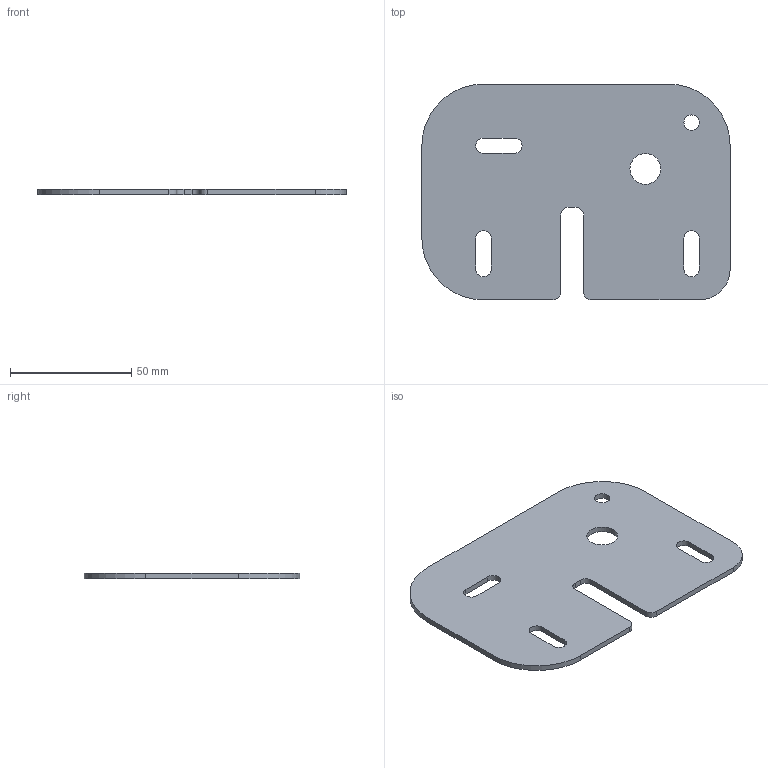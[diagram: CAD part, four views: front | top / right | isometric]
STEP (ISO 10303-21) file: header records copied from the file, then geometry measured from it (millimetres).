
FILE_DESCRIPTION(/* description */ (''),/* implementation_level */ '2;1');
FILE_NAME(/* name */ 'C:/Users/drew.hildbrand/Desktop/Sheet Metal Test Parts/Sheet Cutting Test Part REV 01 v1.step',/* time_stamp */ '2022-05-31T16:27:29-04:00',/* author */ (''),/* organization */ (''),/* preprocessor_version */ 'ST-DEVELOPER v18.1',/* originating_system */ 'Autodesk Translation Framework v10.13.0.1454',/* authorisation */ '');
FILE_SCHEMA (('AUTOMOTIVE_DESIGN { 1 0 10303 214 3 1 1 }'));
Length unit declared in the file: inch
Products named in the file (1): Sheet Cutting Test Part REV 01
Bounding box: 127 x 88.9 x 2.29 mm (x, y, z)
Volume: 22819.2 mm3; surface area: 21473.7 mm2
Topology: 1 solids, 1 shells, 32 faces, 90 edges, 60 vertices
Faces by surface type: plane 16, cylinder 16
Full cylindrical faces by diameter (mm): 6.35 x1, 12.7 x1
Entity records: 1108 total; most frequent: DIRECTION 188, CARTESIAN_POINT 183, ORIENTED_EDGE 180, EDGE_CURVE 90, AXIS2_PLACEMENT_3D 65, VERTEX_POINT 60, LINE 58, VECTOR 58
